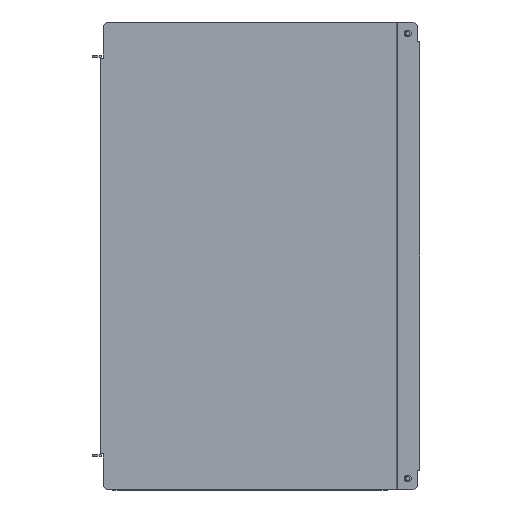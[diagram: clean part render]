
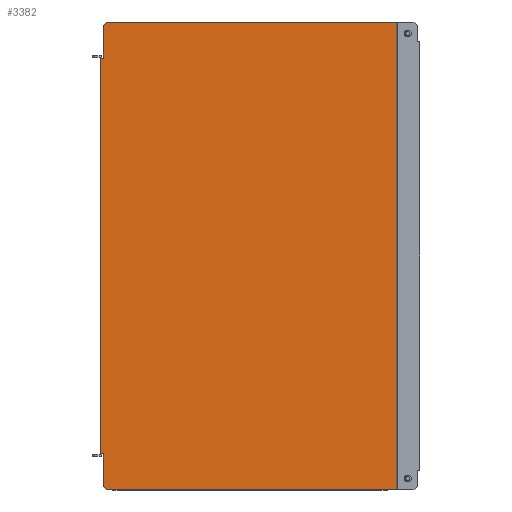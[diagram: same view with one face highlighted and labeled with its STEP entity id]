
A CAD part, front view. The second image highlights one B-rep face of the part: STEP entity #3382.
In plain terms, the highlighted planar face has unit normal (0, -1, 0).
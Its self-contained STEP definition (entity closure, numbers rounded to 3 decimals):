
#117 = EDGE_CURVE ( 'NONE', #2160, #1575, #3535, .T. ) ;
#124 = CARTESIAN_POINT ( 'NONE',  ( 0., 1.5, -189. ) ) ;
#150 = VECTOR ( 'NONE', #452, 1000. ) ;
#169 = LINE ( 'NONE', #124, #2334 ) ;
#267 = LINE ( 'NONE', #3130, #4176 ) ;
#371 = VECTOR ( 'NONE', #3229, 1000. ) ;
#396 = CARTESIAN_POINT ( 'NONE',  ( -300.5, 1.5, -220.5 ) ) ;
#445 = VECTOR ( 'NONE', #642, 1000. ) ;
#452 = DIRECTION ( 'NONE',  ( 1., 0., 0. ) ) ;
#560 = EDGE_CURVE ( 'NONE', #2106, #3523, #969, .T. ) ;
#561 = VERTEX_POINT ( 'NONE', #2320 ) ;
#593 = VERTEX_POINT ( 'NONE', #396 ) ;
#642 = DIRECTION ( 'NONE',  ( 1., 0., 0. ) ) ;
#694 = CARTESIAN_POINT ( 'NONE',  ( -300.8, 1.5, 189. ) ) ;
#733 = ORIENTED_EDGE ( 'NONE', *, *, #2370, .T. ) ;
#754 = CARTESIAN_POINT ( 'NONE',  ( -303.3, 1.5, 189. ) ) ;
#774 = CARTESIAN_POINT ( 'NONE',  ( -300.5, 1.5, 220.5 ) ) ;
#804 = LINE ( 'NONE', #2408, #1260 ) ;
#810 = LINE ( 'NONE', #3996, #2801 ) ;
#920 = VECTOR ( 'NONE', #1973, 1000. ) ;
#936 = CARTESIAN_POINT ( 'NONE',  ( -20.511, 1.5, -223.5 ) ) ;
#944 = FACE_OUTER_BOUND ( 'NONE', #2906, .T. ) ;
#969 = LINE ( 'NONE', #694, #2195 ) ;
#973 = LINE ( 'NONE', #2264, #920 ) ;
#983 = CARTESIAN_POINT ( 'NONE',  ( -300.5, 1.5, 223.5 ) ) ;
#1013 = CARTESIAN_POINT ( 'NONE',  ( 0., 1.5, 0. ) ) ;
#1016 = EDGE_CURVE ( 'NONE', #3178, #3221, #3891, .T. ) ;
#1030 = DIRECTION ( 'NONE',  ( 0., -1., 0. ) ) ;
#1089 = CARTESIAN_POINT ( 'NONE',  ( 0., 1.5, 223.5 ) ) ;
#1115 = ORIENTED_EDGE ( 'NONE', *, *, #2656, .T. ) ;
#1172 = DIRECTION ( 'NONE',  ( 0., 0., 1. ) ) ;
#1198 = LINE ( 'NONE', #3802, #1522 ) ;
#1213 = CARTESIAN_POINT ( 'NONE',  ( -260.5, 1.5, -260.5 ) ) ;
#1237 = CARTESIAN_POINT ( 'NONE',  ( -20.925, 1.5, -223.5 ) ) ;
#1260 = VECTOR ( 'NONE', #1463, 1000. ) ;
#1264 = ORIENTED_EDGE ( 'NONE', *, *, #1307, .T. ) ;
#1303 = ORIENTED_EDGE ( 'NONE', *, *, #3518, .T. ) ;
#1307 = EDGE_CURVE ( 'NONE', #3240, #1341, #267, .T. ) ;
#1341 = VERTEX_POINT ( 'NONE', #936 ) ;
#1423 = LINE ( 'NONE', #1089, #150 ) ;
#1440 = EDGE_CURVE ( 'NONE', #1769, #3523, #973, .T. ) ;
#1463 = DIRECTION ( 'NONE',  ( 1., 0., 0. ) ) ;
#1504 = ORIENTED_EDGE ( 'NONE', *, *, #4058, .T. ) ;
#1522 = VECTOR ( 'NONE', #1172, 1000. ) ;
#1574 = EDGE_CURVE ( 'NONE', #593, #3375, #4121, .T. ) ;
#1575 = VERTEX_POINT ( 'NONE', #2493 ) ;
#1581 = VERTEX_POINT ( 'NONE', #1844 ) ;
#1583 = CARTESIAN_POINT ( 'NONE',  ( -20.925, 1.5, 223.5 ) ) ;
#1721 = VECTOR ( 'NONE', #1902, 1000. ) ;
#1754 = EDGE_CURVE ( 'NONE', #2160, #1581, #1423, .T. ) ;
#1769 = VERTEX_POINT ( 'NONE', #1980 ) ;
#1844 = CARTESIAN_POINT ( 'NONE',  ( -20.511, 1.5, 223.5 ) ) ;
#1902 = DIRECTION ( 'NONE',  ( -1., 0., 0. ) ) ;
#1936 = VECTOR ( 'NONE', #2314, 1000. ) ;
#1973 = DIRECTION ( 'NONE',  ( 0., 0., 1. ) ) ;
#1980 = CARTESIAN_POINT ( 'NONE',  ( -303.3, 1.5, -189. ) ) ;
#2000 = VECTOR ( 'NONE', #3605, 1000. ) ;
#2027 = DIRECTION ( 'NONE',  ( 0., 0., -1. ) ) ;
#2104 = ORIENTED_EDGE ( 'NONE', *, *, #3454, .F. ) ;
#2106 = VERTEX_POINT ( 'NONE', #3445 ) ;
#2160 = VERTEX_POINT ( 'NONE', #1583 ) ;
#2195 = VECTOR ( 'NONE', #3646, 1000. ) ;
#2232 = DIRECTION ( 'NONE',  ( -1., 0., 0. ) ) ;
#2264 = CARTESIAN_POINT ( 'NONE',  ( -303.3, 1.5, 0. ) ) ;
#2272 = ORIENTED_EDGE ( 'NONE', *, *, #1574, .T. ) ;
#2299 = LINE ( 'NONE', #2616, #371 ) ;
#2314 = DIRECTION ( 'NONE',  ( 0., 0., -1. ) ) ;
#2319 = ORIENTED_EDGE ( 'NONE', *, *, #3356, .T. ) ;
#2320 = CARTESIAN_POINT ( 'NONE',  ( -300.8, 1.5, -189. ) ) ;
#2334 = VECTOR ( 'NONE', #3953, 1000. ) ;
#2370 = EDGE_CURVE ( 'NONE', #561, #2621, #2641, .T. ) ;
#2408 = CARTESIAN_POINT ( 'NONE',  ( -300.5, 1.5, -223.5 ) ) ;
#2447 = ORIENTED_EDGE ( 'NONE', *, *, #1440, .F. ) ;
#2493 = CARTESIAN_POINT ( 'NONE',  ( -297.5, 1.5, 223.5 ) ) ;
#2596 = CARTESIAN_POINT ( 'NONE',  ( -300.8, 1.5, -189. ) ) ;
#2616 = CARTESIAN_POINT ( 'NONE',  ( -260.5, 1.5, 260.5 ) ) ;
#2621 = VERTEX_POINT ( 'NONE', #3168 ) ;
#2641 = LINE ( 'NONE', #2596, #2000 ) ;
#2649 = ORIENTED_EDGE ( 'NONE', *, *, #560, .T. ) ;
#2656 = EDGE_CURVE ( 'NONE', #1341, #1581, #1198, .T. ) ;
#2685 = ORIENTED_EDGE ( 'NONE', *, *, #117, .T. ) ;
#2693 = ORIENTED_EDGE ( 'NONE', *, *, #1016, .T. ) ;
#2801 = VECTOR ( 'NONE', #2027, 1000. ) ;
#2827 = DIRECTION ( 'NONE',  ( 1., 0., 0. ) ) ;
#2852 = DIRECTION ( 'NONE',  ( 0.707, 0., -0.707 ) ) ;
#2874 = VECTOR ( 'NONE', #2852, 1000. ) ;
#2906 = EDGE_LOOP ( 'NONE', ( #2685, #2319, #2693, #3735, #2649, #2447, #2104, #733, #1303, #2272, #1504, #1264, #1115, #3261 ) ) ;
#2913 = CARTESIAN_POINT ( 'NONE',  ( 0., 1.5, 223.5 ) ) ;
#3130 = CARTESIAN_POINT ( 'NONE',  ( -20.925, 1.5, -223.5 ) ) ;
#3168 = CARTESIAN_POINT ( 'NONE',  ( -300.5, 1.5, -189. ) ) ;
#3178 = VERTEX_POINT ( 'NONE', #774 ) ;
#3221 = VERTEX_POINT ( 'NONE', #4079 ) ;
#3229 = DIRECTION ( 'NONE',  ( -0.707, 0., -0.707 ) ) ;
#3240 = VERTEX_POINT ( 'NONE', #1237 ) ;
#3261 = ORIENTED_EDGE ( 'NONE', *, *, #1754, .F. ) ;
#3348 = AXIS2_PLACEMENT_3D ( 'NONE', #1013, #1030, #2232 ) ;
#3356 = EDGE_CURVE ( 'NONE', #1575, #3178, #2299, .T. ) ;
#3375 = VERTEX_POINT ( 'NONE', #3922 ) ;
#3382 = ADVANCED_FACE ( 'NONE', ( #944 ), #4192, .T. ) ;
#3445 = CARTESIAN_POINT ( 'NONE',  ( -300.8, 1.5, 189. ) ) ;
#3454 = EDGE_CURVE ( 'NONE', #561, #1769, #169, .T. ) ;
#3518 = EDGE_CURVE ( 'NONE', #2621, #593, #810, .T. ) ;
#3523 = VERTEX_POINT ( 'NONE', #754 ) ;
#3535 = LINE ( 'NONE', #2913, #1721 ) ;
#3546 = CARTESIAN_POINT ( 'NONE',  ( -300.8, 1.5, 189. ) ) ;
#3572 = LINE ( 'NONE', #3546, #445 ) ;
#3605 = DIRECTION ( 'NONE',  ( 1., 0., 0. ) ) ;
#3646 = DIRECTION ( 'NONE',  ( -1., 0., 0. ) ) ;
#3727 = EDGE_CURVE ( 'NONE', #2106, #3221, #3572, .T. ) ;
#3735 = ORIENTED_EDGE ( 'NONE', *, *, #3727, .F. ) ;
#3802 = CARTESIAN_POINT ( 'NONE',  ( -20.511, 1.5, 0. ) ) ;
#3891 = LINE ( 'NONE', #983, #1936 ) ;
#3922 = CARTESIAN_POINT ( 'NONE',  ( -297.5, 1.5, -223.5 ) ) ;
#3953 = DIRECTION ( 'NONE',  ( -1., 0., 0. ) ) ;
#3996 = CARTESIAN_POINT ( 'NONE',  ( -300.5, 1.5, 223.5 ) ) ;
#4058 = EDGE_CURVE ( 'NONE', #3375, #3240, #804, .T. ) ;
#4079 = CARTESIAN_POINT ( 'NONE',  ( -300.5, 1.5, 189. ) ) ;
#4121 = LINE ( 'NONE', #1213, #2874 ) ;
#4176 = VECTOR ( 'NONE', #2827, 1000. ) ;
#4192 = PLANE ( 'NONE',  #3348 ) ;
